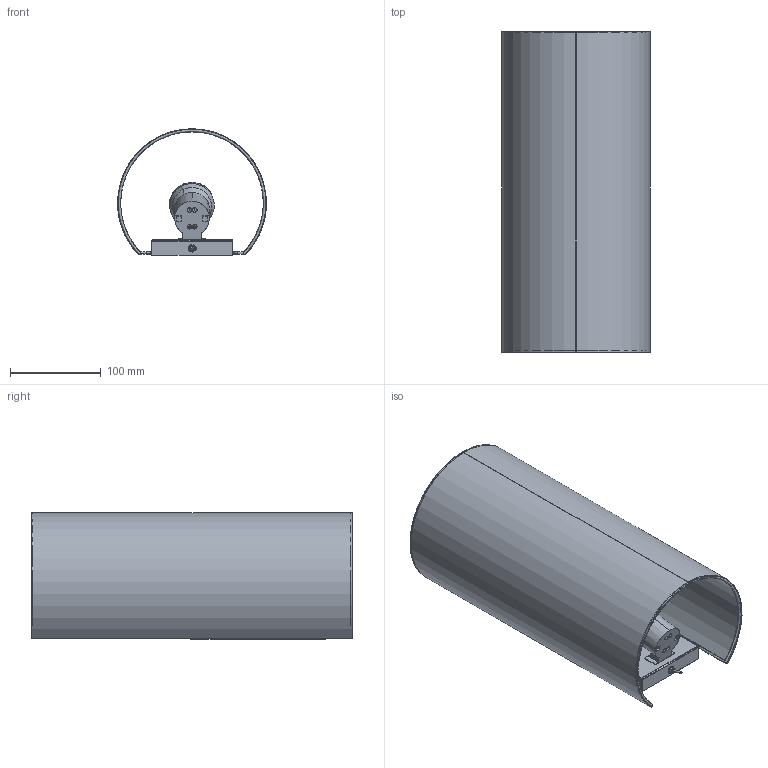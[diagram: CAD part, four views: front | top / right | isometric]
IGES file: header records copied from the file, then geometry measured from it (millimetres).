
Start section: SolidWorks IGES file using analytic representation for surfaces
Global section: file name: Z:\Modele 3D_WWW\_KOLEKCJE_WWW\VELERO\VELERO-I-8042-8043\VELERO-I-8042-8043.IGS; native system: SolidWorks 2020; preprocessor: SolidWorks 2020; author: gabriela.tworek; date: 210510.110605; units: millimetre
Bounding box: 164 x 353.5 x 139.54 mm (x, y, z)
Surface area: 355817.3 mm2 (no closed solid volume)
Topology: 0 solids, 0 shells, 233 faces, 3134 edges, 3127 vertices
Faces by surface type: bspline 142, revolution 91
